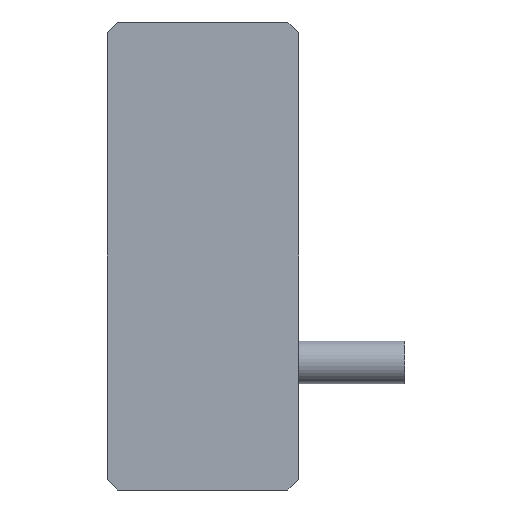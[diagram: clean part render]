
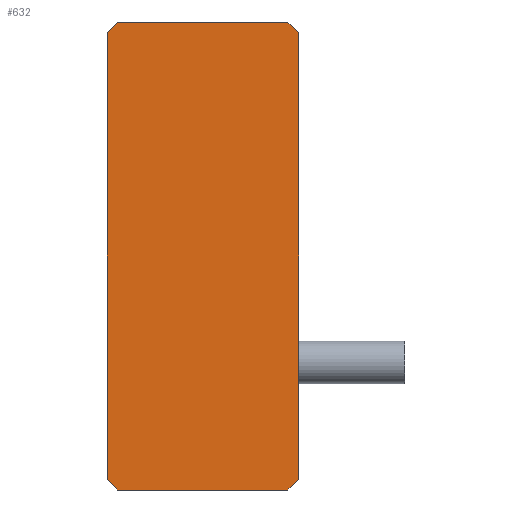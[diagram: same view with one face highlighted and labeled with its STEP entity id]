
A CAD part, front view. The second image highlights one B-rep face of the part: STEP entity #632.
In plain terms, the highlighted planar face has unit normal (0, -1, 0).
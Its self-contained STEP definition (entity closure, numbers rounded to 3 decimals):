
#17 = AXIS2_PLACEMENT_3D ( 'NONE', #4585, #995, #5138 ) ;
#18 = CARTESIAN_POINT ( 'NONE',  ( -8., -8.95, -22. ) ) ;
#166 = LINE ( 'NONE', #1352, #4406 ) ;
#268 = ORIENTED_EDGE ( 'NONE', *, *, #5007, .F. ) ;
#409 = CARTESIAN_POINT ( 'NONE',  ( -9., -8.95, -21. ) ) ;
#470 = EDGE_CURVE ( 'NONE', #868, #1873, #656, .T. ) ;
#501 = CARTESIAN_POINT ( 'NONE',  ( 8., -8.95, 22. ) ) ;
#567 = EDGE_CURVE ( 'NONE', #4222, #1873, #2182, .T. ) ;
#619 = LINE ( 'NONE', #3638, #4746 ) ;
#632 = ADVANCED_FACE ( 'NONE', ( #854 ), #5012, .F. ) ;
#656 = LINE ( 'NONE', #3135, #3668 ) ;
#783 = DIRECTION ( 'NONE',  ( 0.707, 0., -0.707 ) ) ;
#854 = FACE_OUTER_BOUND ( 'NONE', #2028, .T. ) ;
#862 = VERTEX_POINT ( 'NONE', #2945 ) ;
#868 = VERTEX_POINT ( 'NONE', #4588 ) ;
#913 = EDGE_CURVE ( 'NONE', #868, #862, #3918, .T. ) ;
#923 = ORIENTED_EDGE ( 'NONE', *, *, #913, .T. ) ;
#995 = DIRECTION ( 'NONE',  ( 0., 1., 0. ) ) ;
#1149 = VECTOR ( 'NONE', #3315, 1000. ) ;
#1284 = CARTESIAN_POINT ( 'NONE',  ( -8., -8.95, 22. ) ) ;
#1348 = DIRECTION ( 'NONE',  ( -0.707, 0., 0.707 ) ) ;
#1352 = CARTESIAN_POINT ( 'NONE',  ( -9., -8.95, 22. ) ) ;
#1487 = VERTEX_POINT ( 'NONE', #18 ) ;
#1617 = VECTOR ( 'NONE', #3392, 1000. ) ;
#1873 = VERTEX_POINT ( 'NONE', #2516 ) ;
#2017 = VECTOR ( 'NONE', #5271, 1000. ) ;
#2028 = EDGE_LOOP ( 'NONE', ( #3593, #5045, #2087, #2346, #268, #3775, #3116, #923 ) ) ;
#2087 = ORIENTED_EDGE ( 'NONE', *, *, #5293, .T. ) ;
#2182 = LINE ( 'NONE', #501, #3138 ) ;
#2205 = LINE ( 'NONE', #4133, #1149 ) ;
#2346 = ORIENTED_EDGE ( 'NONE', *, *, #5188, .T. ) ;
#2516 = CARTESIAN_POINT ( 'NONE',  ( 8., -8.95, 22. ) ) ;
#2905 = LINE ( 'NONE', #4202, #3757 ) ;
#2945 = CARTESIAN_POINT ( 'NONE',  ( -9., -8.95, 21. ) ) ;
#2962 = DIRECTION ( 'NONE',  ( 0., 0., -1. ) ) ;
#2966 = DIRECTION ( 'NONE',  ( 1., 0., 0. ) ) ;
#2968 = DIRECTION ( 'NONE',  ( 1., 0., 0. ) ) ;
#3027 = CARTESIAN_POINT ( 'NONE',  ( 9., -8.95, -21. ) ) ;
#3116 = ORIENTED_EDGE ( 'NONE', *, *, #470, .F. ) ;
#3124 = CARTESIAN_POINT ( 'NONE',  ( 8., -8.95, -22. ) ) ;
#3135 = CARTESIAN_POINT ( 'NONE',  ( -9., -8.95, 22. ) ) ;
#3138 = VECTOR ( 'NONE', #1348, 1000. ) ;
#3315 = DIRECTION ( 'NONE',  ( 0.707, 0., 0.707 ) ) ;
#3392 = DIRECTION ( 'NONE',  ( -0.707, 0., -0.707 ) ) ;
#3409 = CARTESIAN_POINT ( 'NONE',  ( 9., -8.95, 21. ) ) ;
#3593 = ORIENTED_EDGE ( 'NONE', *, *, #4712, .T. ) ;
#3614 = CARTESIAN_POINT ( 'NONE',  ( 9., -8.95, 22. ) ) ;
#3638 = CARTESIAN_POINT ( 'NONE',  ( -9., -8.95, -21. ) ) ;
#3668 = VECTOR ( 'NONE', #2966, 1000. ) ;
#3757 = VECTOR ( 'NONE', #2968, 1000. ) ;
#3774 = VERTEX_POINT ( 'NONE', #409 ) ;
#3775 = ORIENTED_EDGE ( 'NONE', *, *, #567, .T. ) ;
#3918 = LINE ( 'NONE', #1284, #1617 ) ;
#3977 = VERTEX_POINT ( 'NONE', #3027 ) ;
#4133 = CARTESIAN_POINT ( 'NONE',  ( 9., -8.95, -21. ) ) ;
#4202 = CARTESIAN_POINT ( 'NONE',  ( -9., -8.95, -22. ) ) ;
#4222 = VERTEX_POINT ( 'NONE', #3409 ) ;
#4370 = VERTEX_POINT ( 'NONE', #3124 ) ;
#4406 = VECTOR ( 'NONE', #2962, 1000. ) ;
#4497 = EDGE_CURVE ( 'NONE', #3774, #1487, #619, .T. ) ;
#4585 = CARTESIAN_POINT ( 'NONE',  ( -9., -8.95, 22. ) ) ;
#4588 = CARTESIAN_POINT ( 'NONE',  ( -8., -8.95, 22. ) ) ;
#4712 = EDGE_CURVE ( 'NONE', #862, #3774, #166, .T. ) ;
#4746 = VECTOR ( 'NONE', #783, 1000. ) ;
#5007 = EDGE_CURVE ( 'NONE', #4222, #3977, #5194, .T. ) ;
#5012 = PLANE ( 'NONE',  #17 ) ;
#5045 = ORIENTED_EDGE ( 'NONE', *, *, #4497, .T. ) ;
#5138 = DIRECTION ( 'NONE',  ( 0., 0., 1. ) ) ;
#5188 = EDGE_CURVE ( 'NONE', #4370, #3977, #2205, .T. ) ;
#5194 = LINE ( 'NONE', #3614, #2017 ) ;
#5271 = DIRECTION ( 'NONE',  ( 0., 0., -1. ) ) ;
#5293 = EDGE_CURVE ( 'NONE', #1487, #4370, #2905, .T. ) ;
